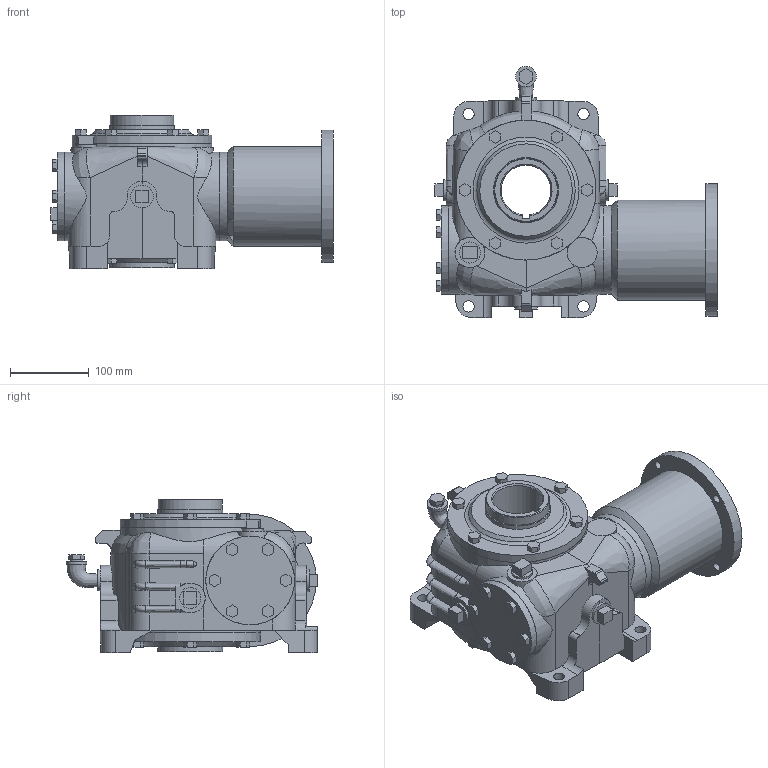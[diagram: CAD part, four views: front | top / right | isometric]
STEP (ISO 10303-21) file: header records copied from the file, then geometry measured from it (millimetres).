
FILE_DESCRIPTION(/* description */ ('Unknown'),/* implementation_level */ '2;1');
FILE_NAME(/* name */ 'HV-30-7ANBNG010',/* time_stamp */ '2024-11-21T09:32:30-05:00',/* author */ ('Unknown'),/* organization */ ('Unknown'),/* preprocessor_version */ 'ST-DEVELOPER v19.4',/* originating_system */ 'Solid Edge',/* authorisation */ 'Unknown');
FILE_SCHEMA (('AUTOMOTIVE_DESIGN {1 0 10303 214 3 1 1}'));
Length unit declared in the file: millimetre
Products named in the file (6): HV-30-7ANBNG010; 30-5-CP; 30-OUTHS-2500; 30-OUTH-2500; 30-MTR45-56C; 30-WCAP
Assembly tree (5 placements, depth 2):
  HV-30-7ANBNG010
    30-5-CP
    30-OUTHS-2500
    30-OUTH-2500
    30-MTR45-56C
    30-WCAP
Bounding box: 358.77 x 319.71 x 195.2 mm (x, y, z)
Volume: 6899142 mm3; surface area: 656880 mm2
Topology: 5 solids, 6 shells, 527 faces, 1336 edges, 892 vertices
Faces by surface type: plane 352, cylinder 107, bspline 50, cone 17, torus 1
Full cylindrical faces by diameter (mm): 0.254 x7, 6.35 x1, 9.525 x7, 10.319 x4, 14.122 x6, 14.287 x4, 25.387 x1, 26.162 x1, 26.987 x1, 65.088 x1, 80.975 x1, 81.026 x1, 81.483 x1, 82.448 x2, 82.549 x1, 82.956 x1, 88.9 x1, 89.408 x1, 111.252 x1, 112.712 x1, 112.776 x3, 114.3 x1, 114.338 x1, 127 x1, 168.148 x1, 177.8 x4
Entity records: 19115 total; most frequent: CARTESIAN_POINT 5360, ORIENTED_EDGE 2460, DIRECTION 2320, EDGE_CURVE 1230, VERTEX_POINT 858, LINE 788, VECTOR 788, AXIS2_PLACEMENT_3D 766
